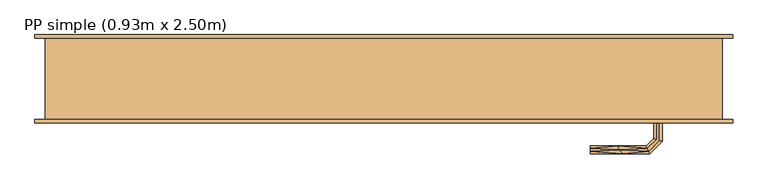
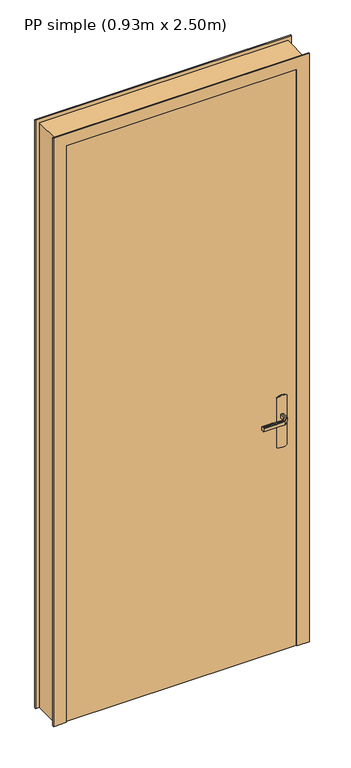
"""IFC4 building model written with IfcOpenShell, lengths in millimetres: door geometry, PP simple (0.93m x 2.50m)."""

from ifc_helpers import new_model, si_unit, frame, origin, origin_with_axes, place, context, project, spatial, polyline, outline, extrude, faceted_brep, source, transform, mapped, element, save


def pp_simple_0_93m_x_2_50m_367ec320(model_context):
    return source(origin(), model_context, "Body", "SolidModel", [
        faceted_brep([(1070.0, 120.0, 0.0), (1070.0, 0.0, 0.0), (1085.0, 0.0, 0.0), (1085.0, -5.0, 0.0), (1035.0, -5.0, 0.0), (1035.0, 40.0, 0.0), (1020.0, 40.0, 0.0), (1020.0, 125.0, 0.0), (1085.0, 125.0, 0.0), (1085.0, 120.0, 0.0), (1070.0, 120.0, 2485.0), (1070.0, 0.0, 2485.0), (1085.0, 120.0, 2500.0), (55.0, 120.0, 2500.0), (55.0, 120.0, 0.0), (70.0, 120.0, 0.0), (70.0, 120.0, 2485.0), (1020.0, 40.0, 2435.0), (1020.0, 125.0, 2435.0), (1035.0, 40.0, 2450.0), (105.0, 40.0, 2450.0), (105.0, 40.0, 0.0), (120.0, 40.0, 0.0), (120.0, 40.0, 2435.0), (70.0, 0.0, 0.0), (70.0, 0.0, 2485.0), (55.0, 125.0, 0.0), (120.0, 125.0, 0.0), (105.0, -5.0, 0.0), (55.0, -5.0, 0.0), (55.0, 0.0, 0.0), (120.0, 125.0, 2435.0), (1035.0, -5.0, 2450.0), (1085.0, -5.0, 2500.0), (55.0, -5.0, 2500.0), (105.0, -5.0, 2450.0), (1085.0, 0.0, 2500.0), (55.0, 0.0, 2500.0), (1085.0, 125.0, 2500.0), (55.0, 125.0, 2500.0)], [[[0, 1, 2, 3, 4, 5, 6, 7, 8, 9]], [[0, 10, 11, 1]], [[9, 12, 13, 14, 15, 16, 10, 0]], [[7, 6, 17, 18]], [[5, 19, 20, 21, 22, 23, 17, 6]], [[16, 15, 24, 25]], [[15, 14, 26, 27, 22, 21, 28, 29, 30, 24]], [[23, 22, 27, 31]], [[10, 16, 25, 11]], [[17, 23, 31, 18]], [[5, 4, 32, 19]], [[3, 33, 34, 29, 28, 35, 32, 4]], [[2, 36, 33, 3]], [[1, 11, 25, 24, 30, 37, 36, 2]], [[8, 38, 12, 9]], [[7, 18, 31, 27, 26, 39, 38, 8]], [[35, 28, 21, 20]], [[37, 30, 29, 34]], [[39, 26, 14, 13]], [[32, 35, 20, 19]], [[36, 37, 34, 33]], [[38, 39, 13, 12]]]),
        extrude(outline(polyline([(1035.0, 40.0), (1035.0, 0.0), (105.0, 0.0), (105.0, 40.0), (1035.0, 40.0)])), origin_with_axes(), (0.0, 0.0, 1.0), 2450.0),
        extrude(outline(polyline([(870.0, 995.0), (1080.0, 995.0), (1083.9960169, 985.3527618), (1085.3589838, 975.0), (1083.9960169, 964.6472382), (1080.0, 955.0), (870.0, 955.0), (866.0039831, 964.6472382), (864.6410162, 975.0), (866.0039831, 985.3527618), (870.0, 995.0)])), frame((0.0, 40.0, 0.0), z_axis=(0.0, 1.0, 0.0), x_axis=(0.0, 0.0, 1.0)), (0.0, 0.0, 1.0), 5.0),
        faceted_brep([(972.9747013, -5.0, 1007.7804408), (977.0252987, -5.0, 1007.7804408), (981.0, -5.0, 1007.0), (981.0, -5.0, 993.0), (977.0252987, -5.0, 992.2195592), (972.9747013, -5.0, 992.2195592), (969.0, -5.0, 993.0), (969.0, -5.0, 1007.0), (977.0252987, -31.0045755, 1007.7804408), (981.0, -32.6509507, 1007.0), (972.9747013, -29.3267632, 1007.7804408), (959.2986025, -43.002862, 1007.7804408), (960.9764148, -47.0534593, 1007.7804408), (969.0, -27.680388, 1007.0), (969.0, -27.680388, 993.0), (972.9747013, -29.3267632, 992.2195592), (977.0252987, -31.0045755, 992.2195592), (960.9764148, -47.0534593, 992.2195592), (959.2986025, -43.002862, 992.2195592), (981.0, -32.6509507, 993.0), (962.62279, -51.0281607, 1007.0), (957.6522273, -39.0281607, 1007.0), (957.6522273, -39.0281607, 993.0), (962.62279, -51.0281607, 993.0), (874.9813594, -51.0281607, 1007.0), (874.9813594, -47.0534593, 1007.7804408), (874.9813594, -43.002862, 1007.7804408), (874.9813594, -39.0281607, 1007.0), (874.9813594, -39.0281607, 993.0), (874.9813594, -43.002862, 992.2195592), (874.9813594, -47.0534593, 992.2195592), (874.9813594, -51.0281607, 993.0), (917.1399809, -45.0281607, 1007.8786868), (922.6923028, -51.0281607, 1007.0), (916.3167933, -39.0281607, 1007.0), (916.3167933, -39.0281607, 993.0), (917.1399811, -45.0281608, 992.1213132), (922.6923104, -51.0281607, 993.0)], [[[0, 1, 2, 3, 4, 5, 6, 7]], [[2, 1, 8, 9]], [[1, 0, 10, 11, 12, 8]], [[0, 7, 13, 10]], [[14, 13, 7, 6]], [[5, 15, 14, 6]], [[5, 4, 16, 17, 18, 15]], [[3, 19, 16, 4]], [[9, 19, 3, 2]], [[9, 8, 12, 20]], [[10, 13, 21, 11]], [[22, 21, 13, 14]], [[14, 15, 18, 22]], [[16, 19, 23, 17]], [[20, 23, 19, 9]], [[24, 25, 26, 27, 28, 29, 30, 31]], [[32, 25, 33]], [[33, 25, 24]], [[33, 20, 12]], [[11, 34, 32]], [[34, 11, 21]], [[27, 26, 34]], [[32, 26, 25]], [[32, 34, 26]], [[32, 33, 12]], [[11, 32, 12]], [[21, 22, 35, 28, 27, 34]], [[36, 29, 35]], [[30, 36, 37]], [[18, 35, 22]], [[29, 28, 35]], [[30, 37, 31]], [[37, 17, 23]], [[36, 17, 37]], [[36, 18, 17]], [[36, 35, 18]], [[29, 36, 30]], [[23, 20, 33, 24, 31, 37]]]),
        extrude(outline(polyline([(870.0, 995.0), (1080.0, 995.0), (1083.9960169, 985.3527618), (1085.3589838, 975.0), (1083.9960169, 964.6472382), (1080.0, 955.0), (870.0, 955.0), (866.0039831, 964.6472382), (864.6410162, 975.0), (866.0039831, 985.3527618), (870.0, 995.0)])), frame((0.0, -5.0, 0.0), z_axis=(0.0, 1.0, 0.0), x_axis=(0.0, 0.0, 1.0)), (0.0, 0.0, 1.0), 5.0),
        faceted_brep([(972.9747013, 45.0, 992.2195592), (977.0252987, 45.0, 992.2195592), (981.0, 45.0, 993.0), (981.0, 45.0, 1007.0), (977.0252987, 45.0, 1007.7804408), (972.9747013, 45.0, 1007.7804408), (969.0, 45.0, 1007.0), (969.0, 45.0, 993.0), (969.0, 67.4852045, 1007.0), (969.0, 67.4852045, 993.0), (972.9747013, 69.1315797, 1007.7804408), (977.0252987, 70.8093921, 1007.7804408), (960.8389062, 86.9957845, 1007.7804408), (959.1610938, 82.9451872, 1007.7804408), (981.0, 72.4557673, 1007.0), (981.0, 72.4557673, 993.0), (977.0252987, 70.8093921, 992.2195592), (972.9747013, 69.1315797, 992.2195592), (959.1610938, 82.9451872, 992.2195592), (960.8389062, 86.9957845, 992.2195592), (957.5147186, 78.9704859, 1007.0), (957.5147186, 78.9704859, 993.0), (962.4852814, 90.9704859, 1007.0), (962.4852814, 90.9704859, 993.0), (874.9542163, 82.9451872, 1007.7804408), (874.9542163, 86.9957845, 1007.7804408), (874.9542163, 90.9704859, 1007.0), (874.9542163, 90.9704859, 993.0), (874.9542163, 86.9957845, 992.2195592), (874.9542163, 82.9451872, 992.2195592), (874.9542163, 78.9704859, 993.0), (874.9542163, 78.9704859, 1007.0), (916.2344675, 78.9704859, 1007.0), (916.2344794, 78.9704859, 993.0), (917.0576551, 84.9704859, 1007.8786868), (922.5547942, 90.9704859, 1007.0), (922.5547957, 90.9704859, 993.0), (917.0576549, 84.9704858, 992.1213132)], [[[0, 1, 2, 3, 4, 5, 6, 7]], [[8, 9, 7, 6]], [[5, 10, 8, 6]], [[5, 4, 11, 12, 13, 10]], [[3, 14, 11, 4]], [[14, 3, 2, 15]], [[2, 1, 16, 15]], [[1, 0, 17, 18, 19, 16]], [[0, 7, 9, 17]], [[20, 21, 9, 8]], [[8, 10, 13, 20]], [[14, 22, 12, 11]], [[23, 22, 14, 15]], [[15, 16, 19, 23]], [[17, 9, 21, 18]], [[24, 25, 26, 27, 28, 29, 30, 31]], [[21, 20, 32, 31, 30, 33]], [[34, 24, 32]], [[25, 34, 35]], [[13, 32, 20]], [[24, 31, 32]], [[25, 35, 26]], [[35, 12, 22]], [[34, 12, 35]], [[34, 13, 12]], [[34, 32, 13]], [[24, 34, 25]], [[22, 23, 36, 27, 26, 35]], [[37, 28, 36]], [[36, 28, 27]], [[36, 23, 19]], [[18, 33, 37]], [[33, 18, 21]], [[30, 29, 33]], [[37, 29, 28]], [[37, 33, 29]], [[37, 36, 19]], [[18, 37, 19]]]),
    ])


if __name__ == "__main__":
    model = new_model("IFC4")
    model_context = context("Model", 3, world=origin())
    ifc_project = project(units=[si_unit("LENGTHUNIT", "METRE", prefix="MILLI")], contexts=[model_context])
    site = spatial("IfcSite", under=ifc_project)
    building = spatial("IfcBuilding", under=site)
    placement = place(None, origin())
    pp_simple_0_93m_x_2_50m_shape = pp_simple_0_93m_x_2_50m_367ec320(model_context)
    element("IfcDoor", 1, ObjectType="PP simple (0.93m x 2.50m)", at=placement, inside=building, context=model_context, shape_type="MappedRepresentation", body=[
        mapped(pp_simple_0_93m_x_2_50m_shape, transform((0.0, 0.0, 0.0), x_axis=(1.0, 0.0, 0.0), y_axis=(0.0, 1.0, 0.0), z_axis=(0.0, 0.0, 1.0))),
    ])
    save(model, "model.ifc")
